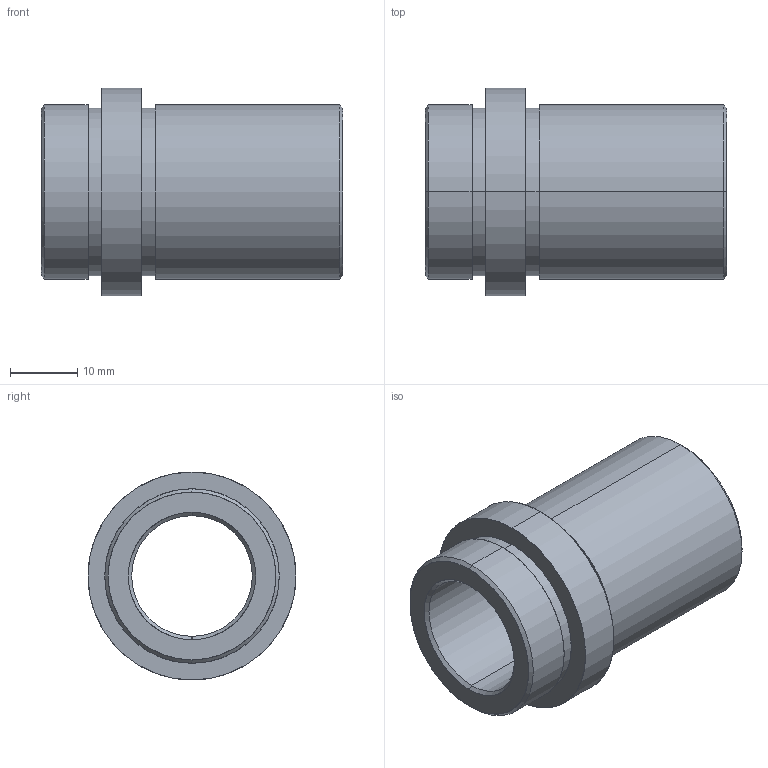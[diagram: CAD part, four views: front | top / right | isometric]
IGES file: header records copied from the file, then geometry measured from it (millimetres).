
Start section: SolidWorks IGES FILE using analytic representation for surfaces
Global section: file name: D:\zzzzz\Delta\D21\18\D21 - 18x36.IGS; native system: SolidWorks 2004 by SolidWorks Corporation; preprocessor: Version 5.3; author: Hkn; date: 080326.191635; units: millimetre
Bounding box: 45 x 31 x 31 mm (x, y, z)
Surface area: 7381.9 mm2 (no closed solid volume)
Topology: 0 solids, 0 shells, 26 faces, 528 edges, 528 vertices
Faces by surface type: revolution 20, bspline 6
